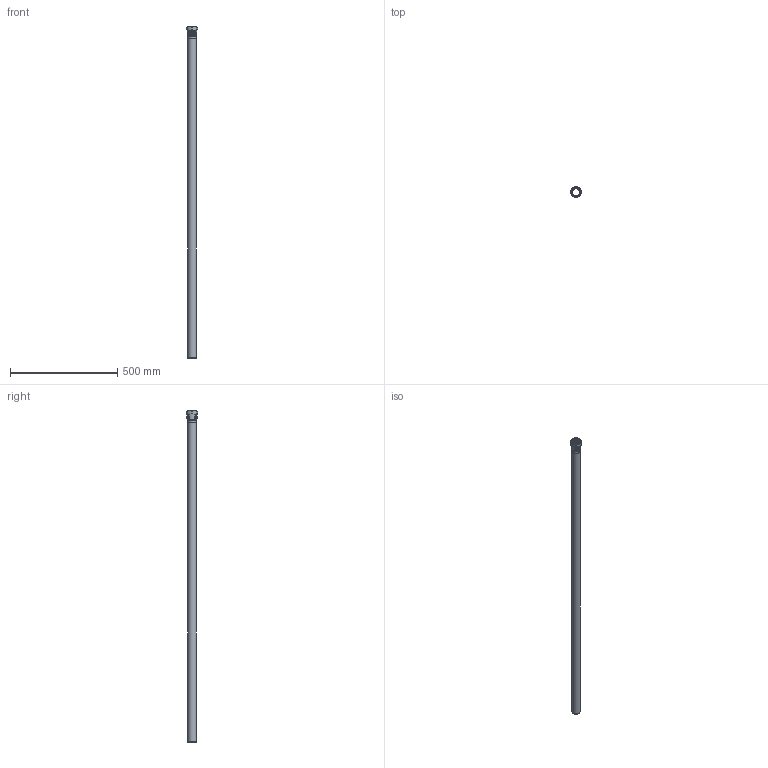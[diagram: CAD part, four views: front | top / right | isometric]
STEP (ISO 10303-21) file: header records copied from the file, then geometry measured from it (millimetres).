
FILE_DESCRIPTION(/* description */ (''),/* implementation_level */ '2;1');
FILE_NAME(/* name */ 'Z:\Geberit\Export\NewStep\390105.stp',/* time_stamp */ '2014-04-02T08:08:40+02:00',/* author */ ('ML'),/* organization */ (''),/* preprocessor_version */ 'ST-DEVELOPER v15.2',/* originating_system */ 'Autodesk Inventor 2014',/* authorisation */ '');
FILE_SCHEMA (('AUTOMOTIVE_DESIGN { 1 0 10303 214 3 1 1 }'));
Length unit declared in the file: millimetre
Products named in the file (3): 861414; 861581ohne; 390105
Bounding box: 53.5 x 53.5 x 1547.3 mm (x, y, z)
Volume: 378148.9 mm3; surface area: 379421 mm2
Topology: 2 solids, 2 shells, 47 faces, 104 edges, 71 vertices
Faces by surface type: torus 24, cylinder 11, plane 10, cone 2
Full cylindrical faces by diameter (mm): 36.15 x2, 40.15 x2, 40.8 x2, 42.8 x1, 44.8 x2, 49.5 x1, 53.5 x1
Entity records: 2003 total; most frequent: CARTESIAN_POINT 962, DIRECTION 182, ORIENTED_EDGE 174, AXIS2_PLACEMENT_3D 91, EDGE_CURVE 87, EDGE_LOOP 78, VERTEX_POINT 71, STYLED_ITEM 49
